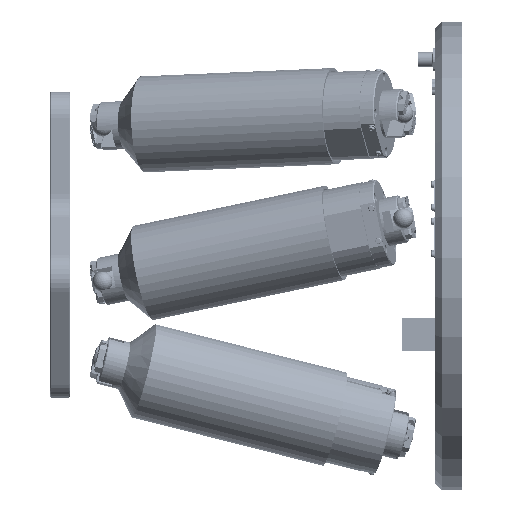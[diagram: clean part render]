
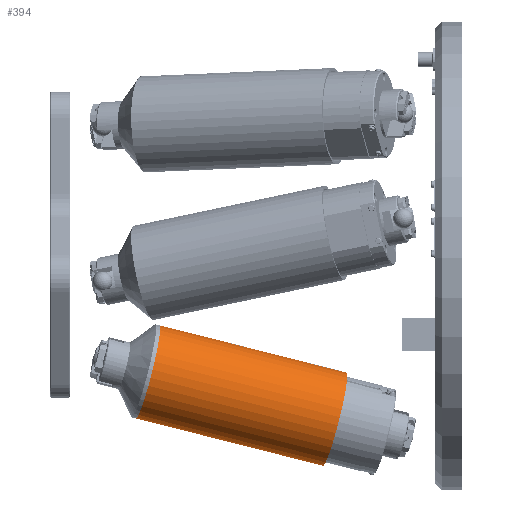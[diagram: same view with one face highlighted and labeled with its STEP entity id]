
A CAD part, left-side view. The second image highlights one B-rep face of the part: STEP entity #394.
In plain terms, the highlighted cylindrical face has radius 36 mm (diameter 72 mm), a partial arc.
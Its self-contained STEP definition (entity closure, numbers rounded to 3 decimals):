
#394 = ADVANCED_FACE ( 'NONE', ( #125592 ), #22572, .T. ) ;
#3941 = EDGE_CURVE ( 'NONE', #93934, #138474, #61180, .T. ) ;
#13816 = DIRECTION ( 'NONE',  ( 0.067, -0.239, 0.969 ) ) ;
#22572 = CYLINDRICAL_SURFACE ( 'NONE', #35323, 36. ) ;
#24942 = DIRECTION ( 'NONE',  ( 0.092, -0.965, -0.244 ) ) ;
#24998 = VERTEX_POINT ( 'NONE', #95872 ) ;
#25279 = DIRECTION ( 'NONE',  ( 0.092, -0.965, -0.244 ) ) ;
#28796 = ORIENTED_EDGE ( 'NONE', *, *, #121070, .F. ) ;
#32380 = DIRECTION ( 'NONE',  ( 0.092, -0.965, -0.244 ) ) ;
#33831 = ORIENTED_EDGE ( 'NONE', *, *, #99317, .T. ) ;
#35044 = EDGE_CURVE ( 'NONE', #24998, #64330, #125914, .T. ) ;
#35323 = AXIS2_PLACEMENT_3D ( 'NONE', #109034, #51472, #121122 ) ;
#35985 = CARTESIAN_POINT ( 'NONE',  ( -48.157, -182.353, -87.168 ) ) ;
#42483 = AXIS2_PLACEMENT_3D ( 'NONE', #144045, #25279, #13816 ) ;
#44444 = CARTESIAN_POINT ( 'NONE',  ( -44.27, -223.105, -97.488 ) ) ;
#48175 = CARTESIAN_POINT ( 'NONE',  ( -52.977, -165.15, -156.916 ) ) ;
#51472 = DIRECTION ( 'NONE',  ( 0.092, -0.965, -0.244 ) ) ;
#51851 = VECTOR ( 'NONE', #114397, 1000. ) ;
#61180 = LINE ( 'NONE', #149432, #51851 ) ;
#64330 = VERTEX_POINT ( 'NONE', #35985 ) ;
#66960 = CIRCLE ( 'NONE', #42483, 36. ) ;
#69348 = AXIS2_PLACEMENT_3D ( 'NONE', #108160, #24942, #119729 ) ;
#69752 = ORIENTED_EDGE ( 'NONE', *, *, #3941, .T. ) ;
#81198 = ORIENTED_EDGE ( 'NONE', *, *, #35044, .F. ) ;
#88576 = CIRCLE ( 'NONE', #69348, 36. ) ;
#93934 = VERTEX_POINT ( 'NONE', #104365 ) ;
#95872 = CARTESIAN_POINT ( 'NONE',  ( -61.505, -42.386, -51.724 ) ) ;
#99317 = EDGE_CURVE ( 'NONE', #24998, #93934, #66960, .T. ) ;
#104365 = CARTESIAN_POINT ( 'NONE',  ( -66.326, -25.184, -121.473 ) ) ;
#108160 = CARTESIAN_POINT ( 'NONE',  ( -50.567, -173.751, -122.042 ) ) ;
#109034 = CARTESIAN_POINT ( 'NONE',  ( -46.68, -214.504, -132.362 ) ) ;
#114397 = DIRECTION ( 'NONE',  ( 0.092, -0.965, -0.244 ) ) ;
#119729 = DIRECTION ( 'NONE',  ( 0.067, -0.239, 0.969 ) ) ;
#121070 = EDGE_CURVE ( 'NONE', #64330, #138474, #88576, .T. ) ;
#121122 = DIRECTION ( 'NONE',  ( 0.067, -0.239, 0.969 ) ) ;
#125592 = FACE_OUTER_BOUND ( 'NONE', #151470, .T. ) ;
#125914 = LINE ( 'NONE', #44444, #131474 ) ;
#131474 = VECTOR ( 'NONE', #32380, 1000. ) ;
#138474 = VERTEX_POINT ( 'NONE', #48175 ) ;
#144045 = CARTESIAN_POINT ( 'NONE',  ( -63.916, -33.785, -86.599 ) ) ;
#149432 = CARTESIAN_POINT ( 'NONE',  ( -49.091, -205.902, -167.236 ) ) ;
#151470 = EDGE_LOOP ( 'NONE', ( #33831, #69752, #28796, #81198 ) ) ;
